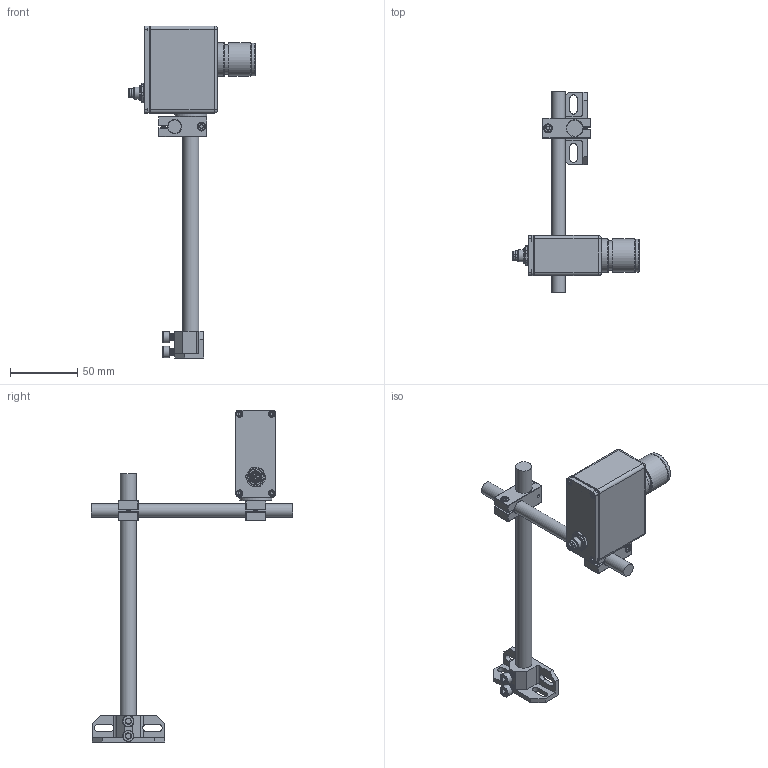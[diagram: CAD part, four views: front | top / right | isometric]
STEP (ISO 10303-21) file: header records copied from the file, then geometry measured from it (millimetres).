
FILE_DESCRIPTION((''),'2;1');
FILE_NAME('C:\Dokumente und Einstellungen\Dr.Maurer\Desktop\Inventor Matthias Kimmerle\KTRD4000\Step Dateien\KTRD4000 mit Montagehalter.stp','2021-05-07T10:45:43',('Dr.Maurer'),(''),'Autodesk Inventor 10','Autodesk Inventor 10','');
FILE_SCHEMA(('AUTOMOTIVE_DESIGN { 1 0 10303 214 1 1 1 1 }'));
Length unit declared in the file: millimetre
Products named in the file (23): Montagehalter KTRD4000; 50119333 Halterung; 003548_00.0; 91290A224; Rundstange 12x200; Rundstange 10x150; 090404 Klemme; 91290A115; 090405 Klemme; KTRD4000 mit Aufnahme; Gehäuse; 060902 Gehäuse KTR 4000 Neu; Dichtung; Deckel; Binder-712; A25-15; Linse_15; 91290A102; 090402 Halter-Aufnahme; 90274A116
Assembly tree (30 placements, depth 4):
  Montagehalter KTRD4000
    50119333 Halterung
      003548_00.0
        003548_00.0
      91290A224  x2
    Rundstange 12x200
    Rundstange 10x150
    090404 Klemme
      090404 Klemme
      91290A115  x2
    090405 Klemme
      090405 Klemme
      91290A115  x2
    KTRD4000 mit Aufnahme
      Gehäuse
        060902 Gehäuse KTR 4000 Neu
        Dichtung
        Deckel
        Binder-712
        A25-15
        Linse_15
        91290A102  x4
      090402 Halter-Aufnahme
      90274A116  x2
Bounding box: 94.1 x 150 x 247.5 mm (x, y, z)
Volume: 169213.1 mm3; surface area: 61265.2 mm2
Topology: 24 solids, 24 shells, 1154 faces, 3865 edges, 2819 vertices
Faces by surface type: plane 423, cylinder 374, cone 214, bspline 119, sphere 12, torus 12
Full cylindrical faces by diameter (mm): 0.5 x8, 0.6 x8, 1 x8, 2.5 x76, 3 x92, 3.2 x6, 4.2 x2, 4.5 x4, 5 x22, 5.5 x4, 5.78 x2, 6 x4, 6.1 x1, 8.315 x1, 8.5 x2, 9 x1, 9.65 x1, 10 x2, 10.25 x1, 12 x2, 14 x1, 15 x2, 15.05 x1, 15.1 x1, 18 x2, 22 x1, 24 x1, 24.5 x1, 25 x2
Entity records: 39443 total; most frequent: CARTESIAN_POINT 20481, ORIENTED_EDGE 3942, DIRECTION 3330, EDGE_CURVE 1971, VERTEX_POINT 1475, AXIS2_PLACEMENT_3D 1285, EDGE_LOOP 1086, FACE_OUTER_BOUND 778
